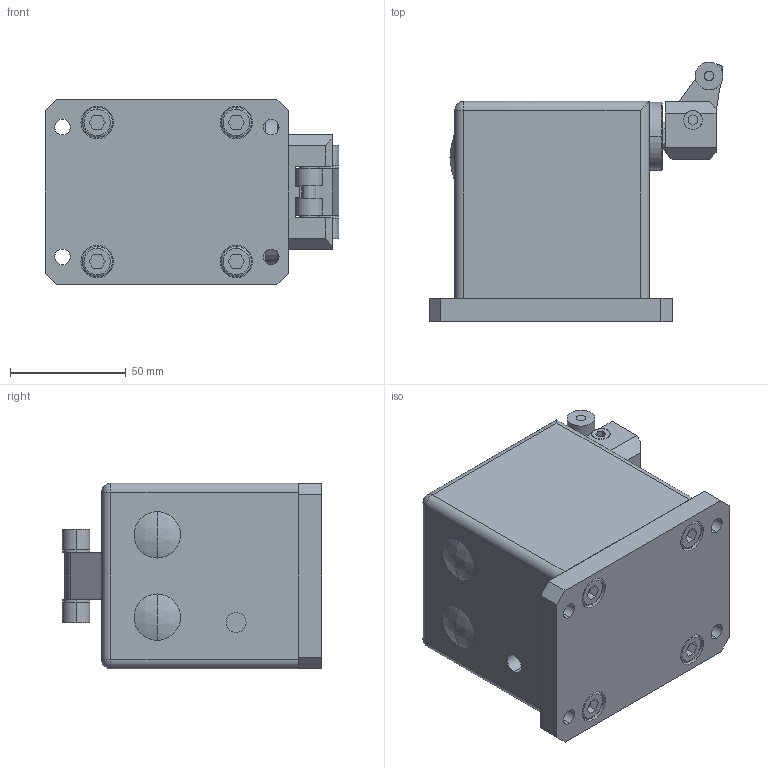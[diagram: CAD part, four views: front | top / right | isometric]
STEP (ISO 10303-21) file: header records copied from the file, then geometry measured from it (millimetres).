
FILE_DESCRIPTION (( 'STEP AP203' ), '1' );
FILE_NAME ('DBS150-EW-KI.STEP', '2008-09-05T09:06:45', ( '' ), ( '' ), 'SwSTEP 2.0', 'SolidWorks 2007', '' );
FILE_SCHEMA (( 'CONFIG_CONTROL_DESIGN' ));
Length unit declared in the file: millimetre
Products named in the file (1): DBS150-EW-KI
Bounding box: 126.76 x 112 x 80 mm (x, y, z)
Volume: 605082.6 mm3; surface area: 106131.4 mm2
Topology: 6 solids, 7 shells, 337 faces, 791 edges, 509 vertices
Faces by surface type: plane 176, cylinder 127, torus 14, cone 14, sphere 6
Entity records: 9701 total; most frequent: DIRECTION 1743, CARTESIAN_POINT 1635, ORIENTED_EDGE 1558, EDGE_CURVE 779, AXIS2_PLACEMENT_3D 629, VERTEX_POINT 509, VECTOR 485, LINE 485
